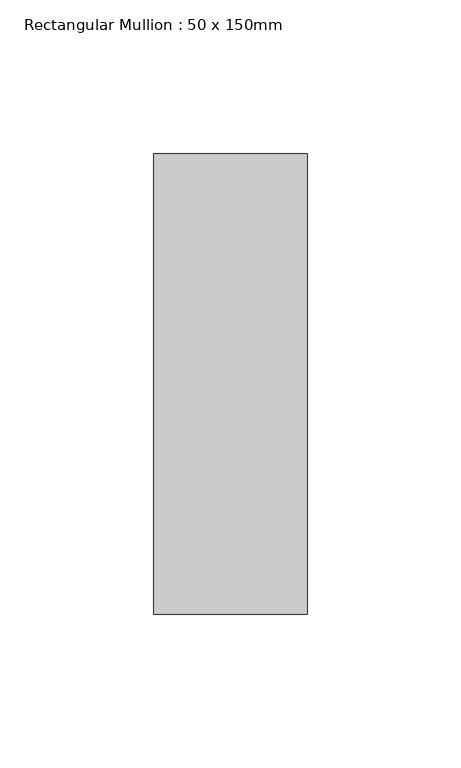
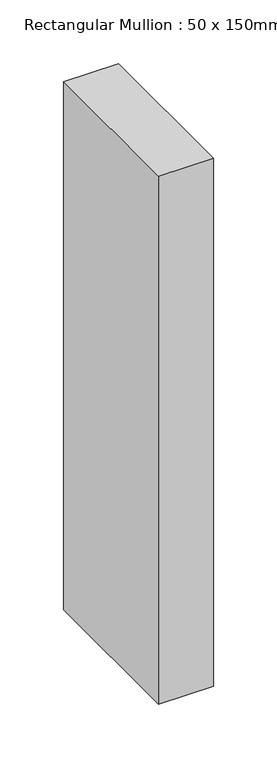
"""IFC4 building model written with IfcOpenShell, lengths in millimetres: member geometry, Rectangular Mullion : 50 x 150mm."""

from ifc_helpers import new_model, si_unit, frame, origin, place, context, project, spatial, polyline, outline, extrude, source, transform, mapped, element, save


def rectangular_mullion_50_x_150mm_36ef6b42(model_context):
    return source(origin(), model_context, "Body", "SweptSolid", [
        extrude(outline(polyline([(0.0, 75.0), (0.0, -75.0), (-50.0, -75.0), (-50.0, 75.0), (0.0, 75.0)])), frame((0.0, 0.0, -507.0833331), z_axis=(0.0, 0.0, 1.0), x_axis=(1.0, 0.0, 0.0)), (0.0, 0.0, 1.0), 507.0833331),
    ])


if __name__ == "__main__":
    model = new_model("IFC4")
    model_context = context("Model", 3, world=origin())
    ifc_project = project(units=[si_unit("LENGTHUNIT", "METRE", prefix="MILLI")], contexts=[model_context])
    site = spatial("IfcSite", under=ifc_project)
    building = spatial("IfcBuilding", under=site)
    placement = place(None, origin())
    rectangular_mullion_50_x_150mm_shape = rectangular_mullion_50_x_150mm_36ef6b42(model_context)
    element("IfcMember", 1, ObjectType="Rectangular Mullion : 50 x 150mm", at=placement, inside=building, context=model_context, shape_type="MappedRepresentation", body=[
        mapped(rectangular_mullion_50_x_150mm_shape, transform((0.0, 0.0, 0.0), x_axis=(1.0, 0.0, 0.0), y_axis=(0.0, 1.0, 0.0), z_axis=(0.0, 0.0, 1.0))),
    ])
    save(model, "model.ifc")
